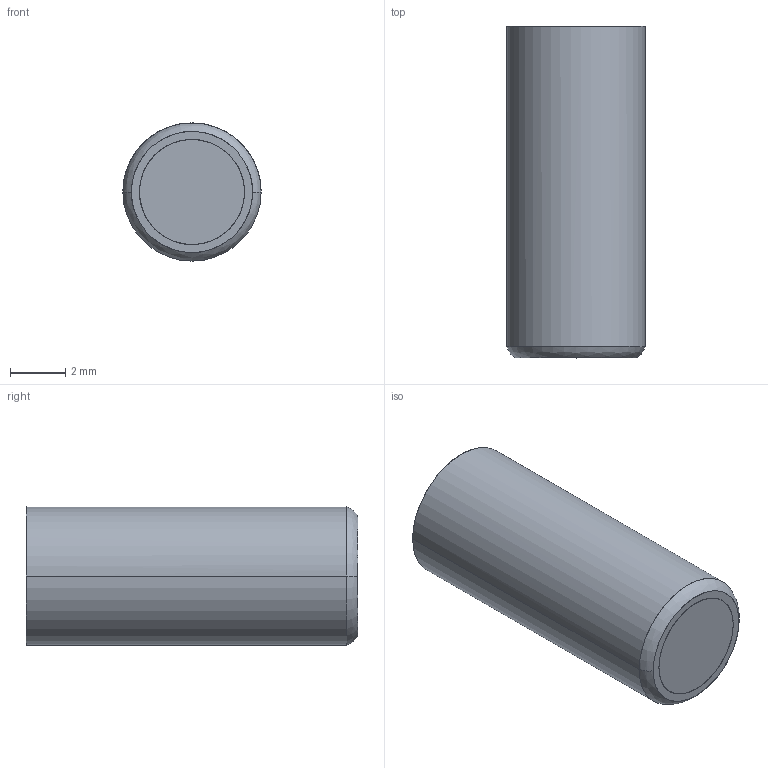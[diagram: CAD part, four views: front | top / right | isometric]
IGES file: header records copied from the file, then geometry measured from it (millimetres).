
Start section: START RECORD GO HERE.
Global section: file name: fa053012-21.igs; native system: DASSAULT SYSTEMES CATIA V5 R20 - www.3ds.com; preprocessor: CATIA Version 5 Release 20 ; author: Utente; organization: NB04-ASUS; date: 20201108.083917; units: millimetre
Bounding box: 5 x 12 x 5 mm (x, y, z)
Surface area: 601.7 mm2 (no closed solid volume)
Topology: 0 solids, 0 shells, 500 faces, 2344 edges, 2342 vertices
Faces by surface type: bspline 191, revolution 173, plane 136
